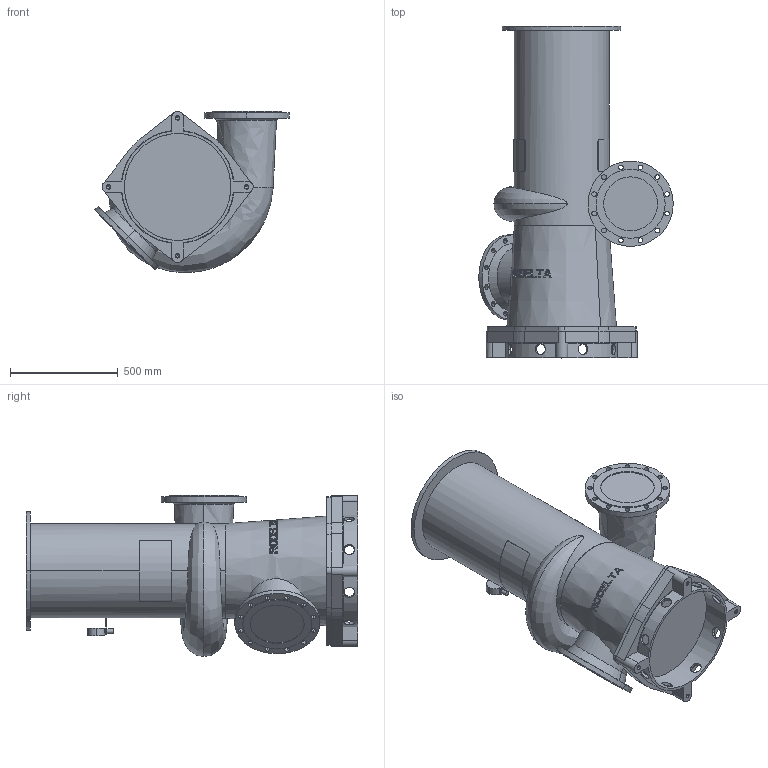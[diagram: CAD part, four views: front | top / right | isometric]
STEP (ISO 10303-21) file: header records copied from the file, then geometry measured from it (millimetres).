
FILE_DESCRIPTION((''),'2;1');
FILE_NAME('8510_ASM','2024-07-30T',('Lyritlocal'),(''),'PRO/ENGINEER BY PARAMETRIC TECHNOLOGY CORPORATION, 2016360','PRO/ENGINEER BY PARAMETRIC TECHNOLOGY CORPORATION, 2016360','');
FILE_SCHEMA(('CONFIG_CONTROL_DESIGN'));
Length unit declared in the file: millimetre
Products named in the file (3): 8510; 8510_VOET; 8510_ASM
Assembly tree (2 placements, depth 2):
  8510_ASM
    8510
    8510_VOET
Bounding box: 901.81 x 1539 x 747.05 mm (x, y, z)
Volume: 297748321.2 mm3; surface area: 4725053.7 mm2
Topology: 2 solids, 6 shells, 542 faces, 1460 edges, 967 vertices
Faces by surface type: plane 343, cylinder 155, cone 34, bspline 6, torus 4
Entity records: 19328 total; most frequent: CARTESIAN_POINT 6085, ORIENTED_EDGE 2888, DIRECTION 2477, EDGE_CURVE 1452, VERTEX_POINT 967, AXIS2_PLACEMENT_3D 961, EDGE_LOOP 659, VECTOR 555
